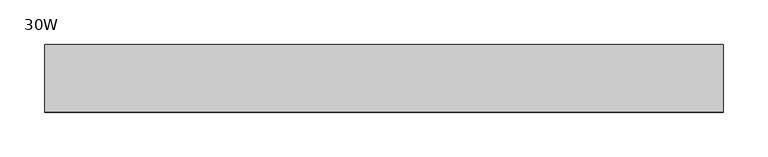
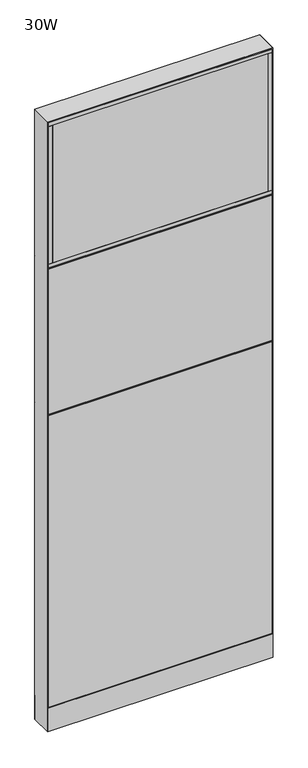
"""IFC4 building model written with IfcOpenShell, lengths in millimetres: furniture geometry, Steelcase - Montage - Frame - 86H - Enhanced Monolithic - Base Cavity : 30W."""

import ifcopenshell
import ifcopenshell.guid

model = None  # the IFC model being written
_history = None  # IfcOwnerHistory: only IFC2X3 demands one
_inside = {}  # id of a spatial element -> (the spatial element, [elements in it])
_under = {}  # id of a project, library or spatial element -> (it, [spatial elements below it])
_declared = {}  # id of a project -> (the project, [libraries it declares])
_typed = {}  # id of a type object -> (the type object, [elements of that type])
_made_of = {}  # id of a material, layer set ... -> (it, [elements and type objects made of it])


def new_model(schema):
    """Start an empty IFC model of exactly this schema.

    Asked for "IFC4X3", IfcOpenShell would pick the latest addendum, in which some entities
    have other attributes; the version numbers below select the first issue.
    IFC2X3 requires an IfcOwnerHistory on every rooted entity: one is made here for all.
    """
    global model, _history
    if schema == "IFC4X3":
        model = ifcopenshell.file(schema_version=(4, 3, 0, 0))
    else:
        model = ifcopenshell.file(schema=schema)
    _inside.clear()
    _under.clear()
    _declared.clear()
    _typed.clear()
    _made_of.clear()
    _history = None
    if model.schema == "IFC2X3":
        org = make("IfcOrganization", Name="unknown")
        user = make(
            "IfcPersonAndOrganization",
            ThePerson=make("IfcPerson", FamilyName="unknown"),
            TheOrganization=org,
        )
        app = make(
            "IfcApplication",
            ApplicationDeveloper=org,
            Version="unknown",
            ApplicationFullName="unknown",
            ApplicationIdentifier="unknown",
        )
        _history = make(
            "IfcOwnerHistory",
            OwningUser=user,
            OwningApplication=app,
            ChangeAction="ADDED",
            CreationDate=0,
        )
    return model


def make(cls, **values):
    """One entity of the class cls with the attributes given. An attribute that is None is left unset."""
    return model.create_entity(
        cls, **{name: value for name, value in values.items() if value is not None}
    )


def rooted(cls, **values):
    """An entity with a GlobalId (a new one), such as an element, a storey or a relation."""
    return make(cls, GlobalId=ifcopenshell.guid.new(), OwnerHistory=_history, **values)


def si_unit(unit_type, name, prefix=None):
    """IfcSIUnit, for example si_unit("LENGTHUNIT", "METRE", prefix="MILLI")."""
    return make("IfcSIUnit", UnitType=unit_type, Prefix=prefix, Name=name)


def assignment(units):
    """IfcUnitAssignment: the units of a project."""
    return None if units is None else make("IfcUnitAssignment", Units=units)


def point(xyz):
    """IfcCartesianPoint."""
    return None if xyz is None else make("IfcCartesianPoint", Coordinates=xyz)


def direction(xyz):
    """IfcDirection."""
    return None if xyz is None else make("IfcDirection", DirectionRatios=xyz)


def frame(location, z_axis=None, x_axis=None):
    """IfcAxis2Placement3D, a coordinate frame: its origin and axes. An axis left out is left unset."""
    return make(
        "IfcAxis2Placement3D",
        Location=point(location),
        Axis=direction(z_axis),
        RefDirection=direction(x_axis),
    )


def frame_2d(location, x_axis=None):
    """IfcAxis2Placement2D, a coordinate frame in the plane: its origin and x axis."""
    return make(
        "IfcAxis2Placement2D", Location=point(location), RefDirection=direction(x_axis)
    )


def origin():
    """The frame at (0, 0, 0) with its axes left unset."""
    return frame((0.0, 0.0, 0.0))


def origin_with_axes():
    """The frame at (0, 0, 0) with the z axis (0, 0, 1) and the x axis (1, 0, 0) written out."""
    return frame((0.0, 0.0, 0.0), z_axis=(0.0, 0.0, 1.0), x_axis=(1.0, 0.0, 0.0))


def place(relative_to, where):
    """IfcLocalPlacement: puts the frame where relative to a parent placement (None: the world)."""
    return make(
        "IfcLocalPlacement", PlacementRelTo=relative_to, RelativePlacement=where
    )


def context(
    kind, dimensions, precision=None, world=None, true_north=None, identifier=None
):
    """IfcGeometricRepresentationContext, for example the 3D "Model" context."""
    return make(
        "IfcGeometricRepresentationContext",
        ContextIdentifier=identifier,
        ContextType=kind,
        CoordinateSpaceDimension=dimensions,
        Precision=precision,
        WorldCoordinateSystem=world,
        TrueNorth=true_north,
    )


def project(units=None, contexts=None):
    """IfcProject with its units and contexts."""
    return rooted(
        "IfcProject",
        Name="project",
        RepresentationContexts=contexts,
        UnitsInContext=assignment(units),
    )


def spatial(cls, under=None, at=None, **own):
    """A site, building, storey or space (cls), placed at a placement, below another one or the project."""
    s = rooted(cls, ObjectPlacement=at, **own)
    if under is not None:
        _under.setdefault(under.id(), (under, []))[1].append(s)
    return s


def polyline(points):
    """IfcPolyline through the points."""
    return make("IfcPolyline", Points=[point(p) for p in points])


def circle_curve(where, radius):
    """IfcCircle in the frame where."""
    return make("IfcCircle", Position=where, Radius=radius)


def trimmed(basis, trim1, trim2, sense, master):
    """IfcTrimmedCurve: the piece of a basis curve between two trims."""
    return make(
        "IfcTrimmedCurve",
        BasisCurve=basis,
        Trim1=trim1,
        Trim2=trim2,
        SenseAgreement=sense,
        MasterRepresentation=master,
    )


def segment(curve, same_sense, transition):
    """IfcCompositeCurveSegment."""
    return make(
        "IfcCompositeCurveSegment",
        Transition=transition,
        SameSense=same_sense,
        ParentCurve=curve,
    )


def composite_curve(segments, self_intersect=None):
    """IfcCompositeCurve: segments joined end to end."""
    return make("IfcCompositeCurve", Segments=segments, SelfIntersect=self_intersect)


def outline(outer, holes=None, kind="AREA"):
    """IfcArbitraryClosedProfileDef: a profile drawn as a closed curve; with holes, ...WithVoids."""
    if holes is None:
        return make("IfcArbitraryClosedProfileDef", ProfileType=kind, OuterCurve=outer)
    return make(
        "IfcArbitraryProfileDefWithVoids",
        ProfileType=kind,
        OuterCurve=outer,
        InnerCurves=holes,
    )


def extrude(swept, where, along, depth):
    """IfcExtrudedAreaSolid: the profile swept, set in the frame where, extruded along a direction by depth."""
    return make(
        "IfcExtrudedAreaSolid",
        SweptArea=swept,
        Position=where,
        ExtrudedDirection=direction(along),
        Depth=depth,
    )


def faces_of(points, faces, orient=None, outer=None):
    """IfcFace entities. A face is a list of loops; a loop is a list of indices into points, from 0.

    orient and outer hold one flag for each loop. By default every Orientation is true, the
    first loop of a face is its IfcFaceOuterBound and the others are IfcFaceBound.
    """
    made = []
    for i, loops in enumerate(faces):
        bounds = []
        for j, loop in enumerate(loops):
            is_outer = j == 0 if outer is None else outer[i][j]
            bounds.append(
                make(
                    "IfcFaceOuterBound" if is_outer else "IfcFaceBound",
                    Bound=make("IfcPolyLoop", Polygon=[points[k] for k in loop]),
                    Orientation=True if orient is None else orient[i][j],
                )
            )
        made.append(make("IfcFace", Bounds=bounds))
    return made


def faceted_brep(points, faces, orient=None, outer=None, voids=None):
    """IfcFacetedBrep: a solid bounded by flat faces; with voids (closed shells), ...WithVoids."""
    shared = [point(p) for p in points]
    hull = make("IfcClosedShell", CfsFaces=faces_of(shared, faces, orient, outer))
    if voids is None:
        return make("IfcFacetedBrep", Outer=hull)
    return make(
        "IfcFacetedBrepWithVoids",
        Outer=hull,
        Voids=[
            make(cls, CfsFaces=faces_of(shared, fs, o, b)) for cls, fs, o, b in voids
        ],
    )


def shape(context_of_items, identifier, shape_type, items):
    """IfcShapeRepresentation: the items that make up one representation, for example the "Body"."""
    return make(
        "IfcShapeRepresentation",
        ContextOfItems=context_of_items,
        RepresentationIdentifier=identifier,
        RepresentationType=shape_type,
        Items=items,
    )


def source(mapping_origin, context_of_items, identifier, shape_type, items):
    """IfcRepresentationMap: a shape defined once, which mapped items show again and again."""
    return make(
        "IfcRepresentationMap",
        MappingOrigin=mapping_origin,
        MappedRepresentation=shape(context_of_items, identifier, shape_type, items),
    )


def transform(
    local_origin,
    x_axis=None,
    y_axis=None,
    z_axis=None,
    scale=None,
    scale2=None,
    scale3=None,
    uniform=True,
):
    """IfcCartesianTransformationOperator3D, or its non-uniform kind. x_axis, y_axis, z_axis: its Axis1, 2, 3."""
    if uniform:
        return make(
            "IfcCartesianTransformationOperator3D",
            Axis1=direction(x_axis),
            Axis2=direction(y_axis),
            LocalOrigin=point(local_origin),
            Scale=scale,
            Axis3=direction(z_axis),
        )
    return make(
        "IfcCartesianTransformationOperator3DnonUniform",
        Axis1=direction(x_axis),
        Axis2=direction(y_axis),
        LocalOrigin=point(local_origin),
        Scale=scale,
        Axis3=direction(z_axis),
        Scale2=scale2,
        Scale3=scale3,
    )


def mapped(mapping_source, mapping_target):
    """IfcMappedItem: shows the shape of a source again, moved by a transform."""
    return make(
        "IfcMappedItem", MappingSource=mapping_source, MappingTarget=mapping_target
    )


def made_of(thing, what):
    """Note that an element or type object is made of a material, layer set ...; save() writes the relation."""
    if what is not None:
        _made_of.setdefault(what.id(), (what, []))[1].append(thing)
    return thing


def element(
    cls,
    number,
    at=None,
    inside=None,
    cuts=None,
    type_object=None,
    material=None,
    context=None,
    identifier="Body",
    shape_type=None,
    held_by="IfcProductDefinitionShape",
    body=None,
    shapes=None,
    **own,
):
    """One element of the class cls, such as IfcWall. Its Tag is "e" and its number.

    at: its placement. inside: the storey or other place that contains it. cuts: it is an
    opening in that element (IfcRelVoidsElement). A single representation is given by context,
    identifier, shape_type and body (its items); several are given by shapes. held_by: the class
    of the entity that holds the representations. save() writes the other relations.
    """
    e = rooted(cls, Tag="e%d" % number, ObjectPlacement=at, **own)
    if body is not None:
        shapes = [shape(context, identifier, shape_type, body)]
    if shapes is not None:
        e.Representation = make(held_by, Representations=shapes)
    if inside is not None:
        _inside.setdefault(inside.id(), (inside, []))[1].append(e)
    if cuts is not None:
        rooted(
            "IfcRelVoidsElement", RelatingBuildingElement=cuts, RelatedOpeningElement=e
        )
    if type_object is not None:
        _typed.setdefault(type_object.id(), (type_object, []))[1].append(e)
    return made_of(e, material)


def aggregate(whole, parts):
    """IfcRelAggregates: a whole, such as a stair, and the parts it consists of."""
    return rooted("IfcRelAggregates", RelatingObject=whole, RelatedObjects=parts)


def save(model, path):
    """Write the relations noted so far, then the file.

    IfcRelAggregates (storeys below a building ...), IfcRelContainedInSpatialStructure (elements
    in a storey), IfcRelDefinesByType, IfcRelAssociatesMaterial and IfcRelDeclares: one each for
    every whole, place, type object, material and project.
    """
    for whole, parts in _under.values():
        aggregate(whole, parts)
    for where, things in _inside.values():
        rooted(
            "IfcRelContainedInSpatialStructure",
            RelatedElements=things,
            RelatingStructure=where,
        )
    for kind, things in _typed.values():
        rooted("IfcRelDefinesByType", RelatedObjects=things, RelatingType=kind)
    for what, things in _made_of.values():
        rooted("IfcRelAssociatesMaterial", RelatedObjects=things, RelatingMaterial=what)
    for by, libraries in _declared.values():
        rooted("IfcRelDeclares", RelatingContext=by, RelatedDefinitions=libraries)
    model.write(path)


def furniture_30w_6bc390b5(model_context):
    return source(origin(), model_context, "Body", "SolidModel", [
        extrude(outline(polyline([(3.175, 31.7500194), (3.175, 38.1000194), (758.825, 38.1000194), (758.825, 31.7500194), (3.175, 31.7500194)])), frame((0.0, 0.0, 1139.825), z_axis=(0.0, 0.0, 1.0), x_axis=(1.0, 0.0, 0.0)), (0.0, 0.0, 1.0), 517.525),
        extrude(outline(polyline([(746.125, 38.1000015), (746.125, 31.7500017), (15.875, 31.7500017), (15.875, 38.1000015), (746.125, 38.1000015)])), frame((0.0, 0.0, 1676.4), z_axis=(0.0, 0.0, 1.0), x_axis=(1.0, 0.0, 0.0)), (0.0, 0.0, 1.0), 492.125),
        extrude(outline(polyline([(746.125, -31.7499985), (746.125, -38.1000015), (15.875, -38.1000015), (15.875, -31.7499985), (746.125, -31.7499985)])), frame((0.0, 0.0, 1676.4), z_axis=(0.0, 0.0, 1.0), x_axis=(1.0, 0.0, 0.0)), (0.0, 0.0, 1.0), 492.125),
        extrude(outline(polyline([(758.825, -38.1000015), (746.125, -38.1000015), (746.125, 38.1000015), (758.825, 38.1000015), (758.825, -38.1000015)])), frame((0.0, 0.0, 1676.4), z_axis=(0.0, 0.0, 1.0), x_axis=(1.0, 0.0, 0.0)), (0.0, 0.0, 1.0), 492.125),
        extrude(outline(polyline([(15.875, -38.1000015), (3.175, -38.1000015), (3.175, 38.1000015), (15.875, 38.1000015), (15.875, -38.1000015)])), frame((0.0, 0.0, 1676.4), z_axis=(0.0, 0.0, 1.0), x_axis=(1.0, 0.0, 0.0)), (0.0, 0.0, 1.0), 492.125),
        extrude(outline(polyline([(758.825, -38.1000015), (3.175, -38.1000015), (3.175, 38.1000015), (758.825, 38.1000015), (758.825, -38.1000015)])), frame((0.0, 0.0, 1663.7), z_axis=(0.0, 0.0, 1.0), x_axis=(1.0, 0.0, 0.0)), (0.0, 0.0, 1.0), 12.7),
        extrude(outline(polyline([(758.825, -38.1000015), (3.175, -38.1000015), (3.175, 38.1000015), (758.825, 38.1000015), (758.825, -38.1000015)])), frame((0.0, 0.0, 2168.525), z_axis=(0.0, 0.0, 1.0), x_axis=(1.0, 0.0, 0.0)), (0.0, 0.0, 1.0), 12.7),
        faceted_brep([(762.0, 38.1026253, 1136.6499956), (755.6500047, 31.7526299, 1130.3000003), (6.3499917, 31.7526299, 1130.3000003), (-5.4e-06, 38.102627, 1136.6499973), (6.3499917, 31.7526299, 1142.9999997), (755.6500047, 31.7526299, 1142.9999997)], [[[0, 1, 2, 3]], [[4, 2, 1, 5]], [[3, 2, 4]], [[3, 4, 5, 0]], [[5, 1, 0]]]),
        faceted_brep([(762.0, 38.1026253, 1660.5249956), (755.6500047, 31.7526299, 1654.1750003), (6.3499917, 31.7526299, 1654.1750003), (-5.4e-06, 38.102627, 1660.5249973), (6.3499917, 31.7526299, 1666.8749997), (755.6500047, 31.7526299, 1666.8749997)], [[[0, 1, 2, 3]], [[4, 2, 1, 5]], [[3, 2, 4]], [[3, 4, 5, 0]], [[5, 1, 0]]]),
        extrude(outline(polyline([(3.175, 31.7500194), (3.175, 38.1000194), (758.825, 38.1000194), (758.825, 31.7500194), (3.175, 31.7500194)])), frame((0.0, 0.0, 92.075), z_axis=(0.0, 0.0, 1.0), x_axis=(1.0, 0.0, 0.0)), (0.0, 0.0, 1.0), 1041.4),
        extrude(outline(polyline([(3.175, -31.7500194), (758.825, -31.7500194), (758.825, -38.1000194), (3.175, -38.1000194), (3.175, -31.7500194)])), frame((0.0, 0.0, 1139.825), z_axis=(0.0, 0.0, 1.0), x_axis=(1.0, 0.0, 0.0)), (0.0, 0.0, 1.0), 517.525),
        extrude(outline(polyline([(746.125, -38.1000015), (15.875, -38.1000015), (15.875, -31.7500017), (746.125, -31.7500017), (746.125, -38.1000015)])), frame((0.0, 0.0, 1676.4), z_axis=(0.0, 0.0, 1.0), x_axis=(1.0, 0.0, 0.0)), (0.0, 0.0, 1.0), 492.125),
        extrude(outline(polyline([(746.125, 31.7499985), (15.875, 31.7499985), (15.875, 38.1000015), (746.125, 38.1000015), (746.125, 31.7499985)])), frame((0.0, 0.0, 1676.4), z_axis=(0.0, 0.0, 1.0), x_axis=(1.0, 0.0, 0.0)), (0.0, 0.0, 1.0), 492.125),
        extrude(outline(polyline([(758.825, 38.1000015), (758.825, -38.1000015), (746.125, -38.1000015), (746.125, 38.1000015), (758.825, 38.1000015)])), frame((0.0, 0.0, 1676.4), z_axis=(0.0, 0.0, 1.0), x_axis=(1.0, 0.0, 0.0)), (0.0, 0.0, 1.0), 492.125),
        extrude(outline(polyline([(15.875, 38.1000015), (15.875, -38.1000015), (3.175, -38.1000015), (3.175, 38.1000015), (15.875, 38.1000015)])), frame((0.0, 0.0, 1676.4), z_axis=(0.0, 0.0, 1.0), x_axis=(1.0, 0.0, 0.0)), (0.0, 0.0, 1.0), 492.125),
        extrude(outline(polyline([(758.825, 38.1000015), (758.825, -38.1000015), (3.175, -38.1000015), (3.175, 38.1000015), (758.825, 38.1000015)])), frame((0.0, 0.0, 1663.7), z_axis=(0.0, 0.0, 1.0), x_axis=(1.0, 0.0, 0.0)), (0.0, 0.0, 1.0), 12.7),
        extrude(outline(polyline([(758.825, 38.1000015), (758.825, -38.1000015), (3.175, -38.1000015), (3.175, 38.1000015), (758.825, 38.1000015)])), frame((0.0, 0.0, 2168.525), z_axis=(0.0, 0.0, 1.0), x_axis=(1.0, 0.0, 0.0)), (0.0, 0.0, 1.0), 12.7),
        faceted_brep([(762.0, -38.1026297, 1136.65), (0.0, -38.1026297, 1136.65), (6.3499917, -31.7526299, 1130.3000003), (755.6500047, -31.7526299, 1130.3000003), (6.3499917, -31.7526299, 1142.9999997), (755.6500047, -31.7526299, 1142.9999997)], [[[0, 1, 2, 3]], [[4, 5, 3, 2]], [[1, 4, 2]], [[1, 0, 5, 4]], [[5, 0, 3]]]),
        faceted_brep([(762.0, -38.1026297, 1660.525), (0.0, -38.1026297, 1660.525), (6.3499917, -31.7526299, 1654.1750003), (755.6500047, -31.7526299, 1654.1750003), (6.3499917, -31.7526299, 1666.8749997), (755.6500047, -31.7526299, 1666.8749997)], [[[0, 1, 2, 3]], [[4, 5, 3, 2]], [[1, 4, 2]], [[1, 0, 5, 4]], [[5, 0, 3]]]),
        extrude(outline(polyline([(3.175, -31.7500194), (758.825, -31.7500194), (758.825, -38.1000194), (3.175, -38.1000194), (3.175, -31.7500194)])), frame((0.0, 0.0, 92.075), z_axis=(0.0, 0.0, 1.0), x_axis=(1.0, 0.0, 0.0)), (0.0, 0.0, 1.0), 1041.4),
        extrude(outline(polyline([(6.350003, -31.7499985), (755.649997, -31.7499985), (762.0, -38.1000015), (0.0, -38.1000015), (6.350003, -31.7499985)])), frame((0.0, 0.0, 4.064), z_axis=(0.0, 0.0, 1.0), x_axis=(1.0, 0.0, 0.0)), (0.0, 0.0, 1.0), 84.835997),
        extrude(outline(polyline([(6.3500002, 31.7500017), (0.0, 38.1000015), (762.0, 38.1000015), (755.6500002, 31.7500017), (6.3500002, 31.7500017)])), frame((0.0, 0.0, 4.064), z_axis=(0.0, 0.0, 1.0), x_axis=(1.0, 0.0, 0.0)), (0.0, 0.0, 1.0), 84.835997),
        faceted_brep([(762.0, -38.1000015, 2184.4), (0.0, -38.1000015, 2184.4), (6.3500484, -31.749953, 2178.0499516), (755.6499516, -31.749953, 2178.0499516), (6.3500484, 31.749953, 2178.0499516), (755.6499516, 31.749953, 2178.0499516), (0.0, 38.1000015, 2184.4), (762.0, 38.1000015, 2184.4)], [[[0, 1, 2, 3]], [[3, 2, 4, 5]], [[6, 7, 5, 4]], [[1, 0, 7, 6]], [[2, 1, 6, 4]], [[0, 3, 5, 7]]]),
        extrude(outline(composite_curve([segment(trimmed(circle_curve(frame_2d((44.45, 0.0)), 15.24), [point((29.21, 0.0))], [point((59.69, 0.0))], False, "CARTESIAN"), True, "CONTINUOUS"), segment(trimmed(circle_curve(frame_2d((44.45, 0.0)), 15.24), [point((59.69, 0.0))], [point((29.21, 0.0))], False, "CARTESIAN"), True, "CONTINUOUS")], self_intersect=False)), origin_with_axes(), (0.0, 0.0, 1.0), 4.064),
        extrude(outline(composite_curve([segment(trimmed(circle_curve(frame_2d((717.55, 0.0)), 15.24), [point((702.31, 0.0))], [point((732.79, 0.0))], False, "CARTESIAN"), True, "CONTINUOUS"), segment(trimmed(circle_curve(frame_2d((717.55, 0.0)), 15.24), [point((732.79, 0.0))], [point((702.31, 0.0))], False, "CARTESIAN"), True, "CONTINUOUS")], self_intersect=False)), origin_with_axes(), (0.0, 0.0, 1.0), 4.064),
        faceted_brep([(762.0, -38.1000106, 4.064), (762.0, 38.1000015, 4.064), (762.0, 38.1000015, 2184.4), (762.0, -38.1000106, 2184.3999637), (0.0, 38.1000015, 4.064), (0.0, -38.1000015, 4.064), (0.0, -38.1000015, 2184.4), (0.0, 38.1000015, 2184.4), (755.6499879, 31.7500017, 606.425), (6.35, 31.7500017, 606.425), (6.3499998, 31.7500017, 619.125), (755.6499879, 31.7500017, 619.125), (6.35, -31.7499985, 619.125), (755.6499879, -31.7499985, 619.125), (6.350003, -31.7499985, 606.425), (755.6499879, -31.7499985, 606.425), (755.6499879, 31.7500017, 1130.3), (6.35, 31.7500017, 1130.3), (6.3499998, 31.7500017, 1143.0), (755.6499879, 31.7500017, 1143.0), (6.35, -31.7499985, 1143.0), (755.6499879, -31.7499985, 1143.0), (6.350003, -31.7499985, 1130.3), (755.6499879, -31.7499985, 1130.3), (6.35, 31.7500015, 4.064), (6.35, -31.7500015, 4.064), (755.6499879, 31.7499894, 4.064), (755.6499879, -31.7499985, 4.064), (6.35, 31.7500015, 2178.05), (6.3499999, 31.7500016, 1666.875), (6.3499998, 31.7500017, 1654.175), (6.3500015, -31.75, 1654.175), (6.350003, -31.7499985, 1666.875), (6.35, -31.7500015, 2178.05), (755.6499879, 31.7500017, 1654.175), (755.6499879, -31.7499985, 1654.175), (755.6499879, 31.7500017, 1666.875), (755.6499879, -31.7499985, 1666.875), (755.6499879, -31.7499985, 2178.0499516), (755.6499879, 31.7499895, 2178.0499516)], [[[0, 1, 2, 3]], [[4, 5, 6, 7]], [[8, 9, 10, 11]], [[11, 10, 12, 13]], [[13, 12, 14, 15]], [[9, 8, 15, 14]], [[16, 17, 18, 19]], [[19, 18, 20, 21]], [[21, 20, 22, 23]], [[17, 16, 23, 22]], [[24, 25, 5, 4]], [[26, 1, 0, 27]], [[24, 4, 7, 28, 29, 30, 18, 17, 10, 9]], [[5, 25, 14, 12, 22, 20, 31, 32, 33, 6]], [[25, 24, 9, 14]], [[18, 30, 31, 20]], [[10, 17, 22, 12]], [[32, 29, 28, 33]], [[26, 27, 15, 8]], [[16, 11, 13, 23]], [[34, 19, 21, 35]], [[36, 37, 38, 39]], [[27, 0, 3, 38, 37, 35, 21, 23, 13, 15]], [[1, 26, 8, 11, 16, 19, 34, 36, 39, 2]], [[7, 6, 33, 28]], [[3, 2, 39, 38]], [[34, 30, 29, 36]], [[36, 29, 32, 37]], [[37, 32, 31, 35]], [[30, 34, 35, 31]]]),
    ])


if __name__ == "__main__":
    model = new_model("IFC4")
    model_context = context("Model", 3, world=origin())
    ifc_project = project(units=[si_unit("LENGTHUNIT", "METRE", prefix="MILLI")], contexts=[model_context])
    site = spatial("IfcSite", under=ifc_project)
    building = spatial("IfcBuilding", under=site)
    placement = place(None, origin())
    furniture_30w_shape = furniture_30w_6bc390b5(model_context)
    element("IfcFurniture", 1, ObjectType="Steelcase - Montage - Frame - 86H - Enhanced Monolithic - Base Cavity : 30W", at=placement, inside=building, context=model_context, shape_type="MappedRepresentation", body=[
        mapped(furniture_30w_shape, transform((0.0, 0.0, 0.0), x_axis=(1.0, 0.0, 0.0), y_axis=(0.0, 1.0, 0.0), z_axis=(0.0, 0.0, 1.0))),
    ])
    save(model, "model.ifc")
